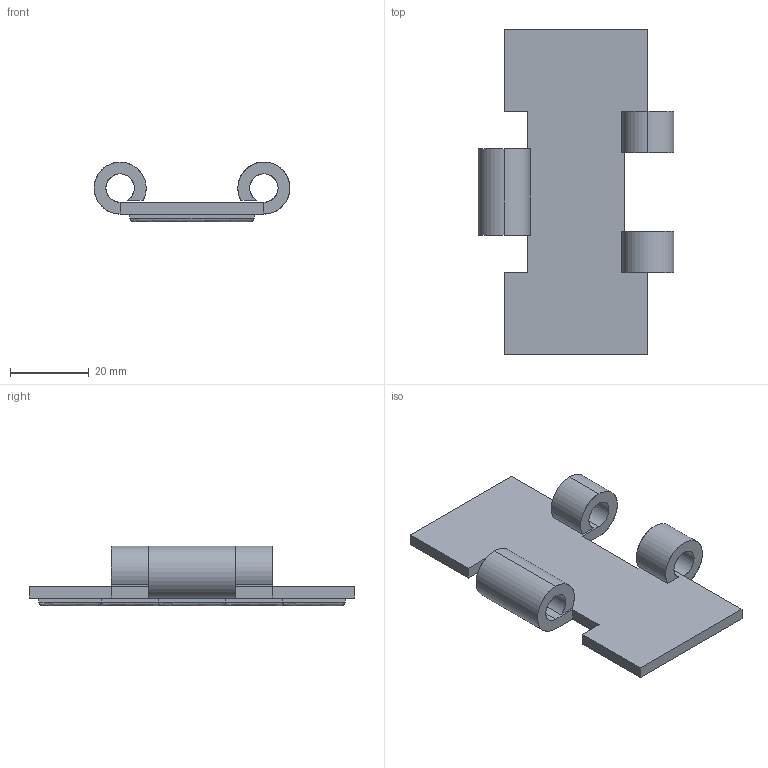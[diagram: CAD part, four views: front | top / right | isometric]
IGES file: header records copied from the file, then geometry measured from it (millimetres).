
Start section: SolidWorks IGES file using analytic representation for surfaces
Global section: file name: C:\Documents and Settings\URETIM3\Desktop\yeni katalog tolgay düzenli\D kataloðu\815 G kauçuk kaplý paslanmaz kulaksýz bant\815 430 G82.IGS; native system: SolidWorks 2006 by SolidWorks Corporation; preprocessor: SolidWorks 2006 by SolidWorks Corporation; author: URETIM3; date: 060912.121721; units: millimetre
Bounding box: 49.65 x 82.6 x 15.2 mm (x, y, z)
Surface area: 9676.8 mm2 (no closed solid volume)
Topology: 0 solids, 0 shells, 65 faces, 824 edges, 824 vertices
Faces by surface type: bspline 39, revolution 26
